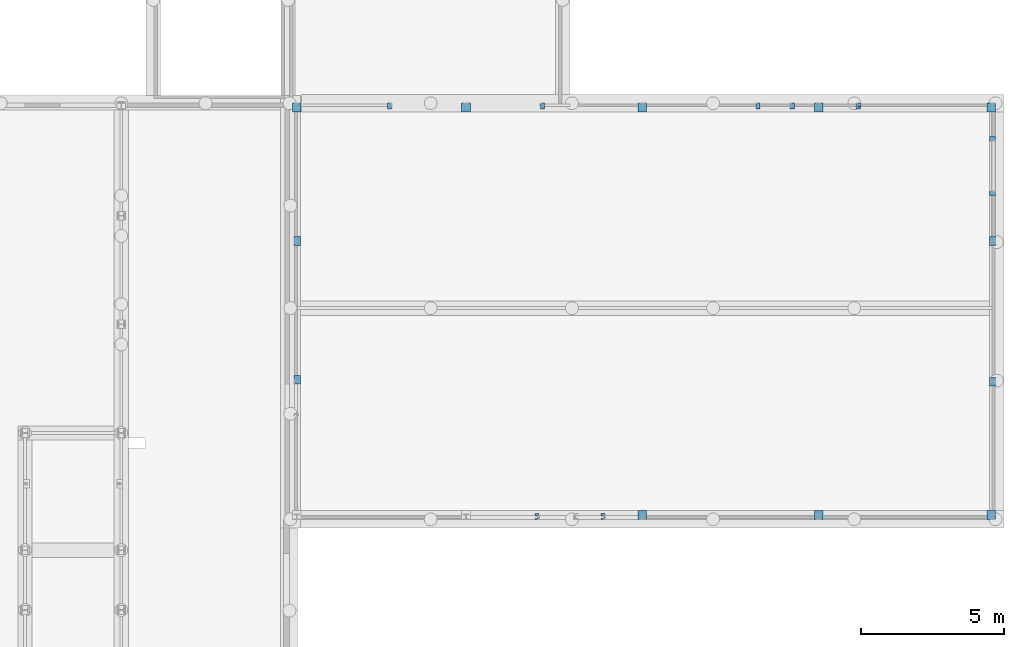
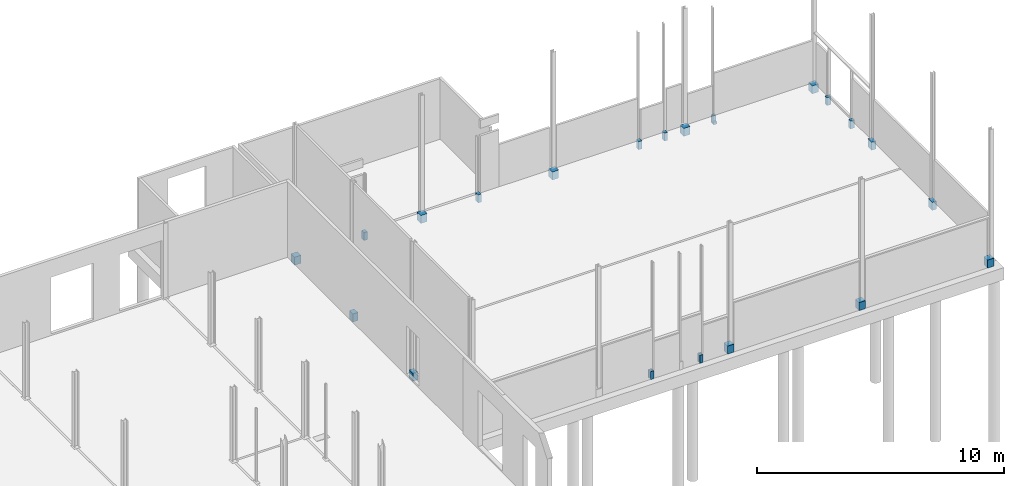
# One storey, part 10 of 18: 21 columns.
"""IFC2X3 building model written with IfcOpenShell, lengths in millimetres."""

from ifc_helpers import new_model, entity, si_unit, converted_unit, derived_unit, direction, frame, frame_2d, origin, origin_2d_with_axis, place, context, subcontext, project, spatial, polyline, rectangle, outline, extrude, faceted_brep, source, transform, mapped, material, type_object, type_shapes, element, save


model = new_model("IFC2X3")

# Units and contexts
model_context = context("Model", 3, precision=0.01, world=origin(), true_north=direction((6.12303176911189e-17, 1.0)))
body_context = subcontext(model_context, "Body", "Model", "MODEL_VIEW")
ifc_project = project(units=[si_unit("LENGTHUNIT", "METRE", prefix="MILLI"), si_unit("AREAUNIT", "SQUARE_METRE"), si_unit("VOLUMEUNIT", "CUBIC_METRE"), converted_unit("PLANEANGLEUNIT", "DEGREE", entity("IfcRatioMeasure", 0.0174532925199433), si_unit("PLANEANGLEUNIT", "RADIAN"), dimensions=[0, 0, 0, 0, 0, 0, 0]), si_unit("MASSUNIT", "GRAM", prefix="KILO"), derived_unit("MASSDENSITYUNIT", [(si_unit("MASSUNIT", "GRAM", prefix="KILO"), 1), (si_unit("LENGTHUNIT", "METRE"), -3)]), derived_unit("MOMENTOFINERTIAUNIT", [(si_unit("LENGTHUNIT", "METRE"), 4)]), si_unit("TIMEUNIT", "SECOND"), si_unit("FREQUENCYUNIT", "HERTZ"), si_unit("THERMODYNAMICTEMPERATUREUNIT", "DEGREE_CELSIUS"), derived_unit("THERMALTRANSMITTANCEUNIT", [(si_unit("MASSUNIT", "GRAM", prefix="KILO"), 1), (si_unit("THERMODYNAMICTEMPERATUREUNIT", "KELVIN"), -1), (si_unit("TIMEUNIT", "SECOND"), -3)]), derived_unit("VOLUMETRICFLOWRATEUNIT", [(si_unit("LENGTHUNIT", "METRE"), 3), (si_unit("TIMEUNIT", "SECOND"), -1)]), si_unit("ELECTRICCURRENTUNIT", "AMPERE"), si_unit("ELECTRICVOLTAGEUNIT", "VOLT"), si_unit("POWERUNIT", "WATT"), si_unit("FORCEUNIT", "NEWTON", prefix="KILO"), si_unit("ILLUMINANCEUNIT", "LUX"), si_unit("LUMINOUSFLUXUNIT", "LUMEN"), si_unit("LUMINOUSINTENSITYUNIT", "CANDELA"), derived_unit("USERDEFINED", [(si_unit("MASSUNIT", "GRAM", prefix="KILO"), -1), (si_unit("LENGTHUNIT", "METRE"), -2), (si_unit("TIMEUNIT", "SECOND"), 3), (si_unit("LUMINOUSFLUXUNIT", "LUMEN"), 1)]), derived_unit("LINEARVELOCITYUNIT", [(si_unit("LENGTHUNIT", "METRE"), 1), (si_unit("TIMEUNIT", "SECOND"), -1)]), si_unit("PRESSUREUNIT", "PASCAL"), derived_unit("USERDEFINED", [(si_unit("LENGTHUNIT", "METRE"), -2), (si_unit("MASSUNIT", "GRAM", prefix="KILO"), 1), (si_unit("TIMEUNIT", "SECOND"), -2)]), derived_unit("LINEARFORCEUNIT", [(si_unit("MASSUNIT", "GRAM", prefix="KILO"), 1), (si_unit("LENGTHUNIT", "METRE"), 1), (si_unit("TIMEUNIT", "SECOND"), -2), (si_unit("LENGTHUNIT", "METRE"), -1)]), derived_unit("PLANARFORCEUNIT", [(si_unit("MASSUNIT", "GRAM", prefix="KILO"), 1), (si_unit("LENGTHUNIT", "METRE"), 1), (si_unit("TIMEUNIT", "SECOND"), -2), (si_unit("LENGTHUNIT", "METRE"), -2)])], contexts=[model_context])

# Site, building, storey
site_placement = place(None, origin())
site = spatial("IfcSite", under=ifc_project, at=site_placement, Name="Default", CompositionType="ELEMENT")
building_placement = place(site_placement, origin())
building = spatial("IfcBuilding", under=site, at=building_placement, CompositionType="ELEMENT")
storey_placement = place(building_placement, frame((0.0, 0.0, -1085.0)))
storey = spatial("IfcBuildingStorey", under=building, at=storey_placement, Name="-00 fundatie", CompositionType="ELEMENT", Elevation=-1085.0)

# Columns
ifc_material = material(Name="f2_beton")
column_type_1 = type_object("IfcColumnType", Name="BERSnl_28_SCO_TLB_kolom vierkant beton_gen_ISR:300x300", PredefinedType="COLUMN", material=ifc_material)
shared_shape_1 = source(origin(), body_context, "Body", "SweptSolid", [
    extrude(rectangle(XDim=300.000000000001, YDim=300.000000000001, at=origin_2d_with_axis()), frame((35089.4270571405, 35346.2966282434, -485.0), z_axis=(0.0, 0.0, 1.0), x_axis=(0.0, -1.0, 0.0)), (0.0, 0.0, 1.0), 395.0),
])
type_shapes(column_type_1, [shared_shape_1])
column_1_placement = place(storey_placement, frame((0.0, 0.0, 1085.0)))
element("IfcColumn", 1, at=column_1_placement, inside=storey, type_object=column_type_1, Name="BERSnl_28_SCO_TLB_kolom vierkant beton_gen_ISR:300x300", ObjectType="BERSnl_28_SCO_TLB_kolom vierkant beton_gen_ISR:300x300", context=body_context, shape_type="MappedRepresentation", body=[
    mapped(shared_shape_1, transform((0.0, 0.0, 0.0), scale=1.0)),
])
column_type_2 = type_object("IfcColumnType", Name="BERSnl_28_SCO_TLB_kolom vierkant beton_gen_ISR:300x300", PredefinedType="COLUMN", material=ifc_material)
shared_shape_2 = source(origin(), body_context, "Body", "SweptSolid", [
    extrude(rectangle(XDim=300.000000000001, YDim=300.000000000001, at=origin_2d_with_axis()), frame((40983.4270571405, 35346.2966282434, -485.0), z_axis=(0.0, 0.0, 1.0), x_axis=(0.0, -1.0, 0.0)), (0.0, 0.0, 1.0), 395.0),
])
type_shapes(column_type_2, [shared_shape_2])
column_2_placement = place(storey_placement, frame((0.0, 0.0, 1085.0)))
element("IfcColumn", 2, at=column_2_placement, inside=storey, type_object=column_type_2, Name="BERSnl_28_SCO_TLB_kolom vierkant beton_gen_ISR:300x300", ObjectType="BERSnl_28_SCO_TLB_kolom vierkant beton_gen_ISR:300x300", context=body_context, shape_type="MappedRepresentation", body=[
    mapped(shared_shape_2, transform((0.0, 0.0, 0.0), scale=1.0)),
])
column_type_3 = type_object("IfcColumnType", Name="BERSnl_28_SCO_TLB_kolom vierkant beton_gen_ISR:300x300", PredefinedType="COLUMN", material=ifc_material)
shared_shape_3 = source(origin(), body_context, "Body", "SweptSolid", [
    extrude(rectangle(XDim=300.000000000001, YDim=300.000000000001, at=origin_2d_with_axis()), frame((47133.4270571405, 35346.2966282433, -485.0), z_axis=(0.0, 0.0, 1.0), x_axis=(0.0, -1.0, 0.0)), (0.0, 0.0, 1.0), 395.0),
])
type_shapes(column_type_3, [shared_shape_3])
column_3_placement = place(storey_placement, frame((0.0, 0.0, 1085.0)))
element("IfcColumn", 3, at=column_3_placement, inside=storey, type_object=column_type_3, Name="BERSnl_28_SCO_TLB_kolom vierkant beton_gen_ISR:300x300", ObjectType="BERSnl_28_SCO_TLB_kolom vierkant beton_gen_ISR:300x300", context=body_context, shape_type="MappedRepresentation", body=[
    mapped(shared_shape_3, transform((0.0, 0.0, 0.0), scale=1.0)),
])
column_type_4 = type_object("IfcColumnType", Name="BERSnl_28_SCO_TLB_kolom vierkant beton_gen_ISR:300x300", PredefinedType="COLUMN", material=ifc_material)
shared_shape_4 = source(origin(), body_context, "Body", "SweptSolid", [
    extrude(rectangle(XDim=300.000000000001, YDim=300.000000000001, at=origin_2d_with_axis()), frame((53283.4270571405, 35346.2966282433, -485.0), z_axis=(0.0, 0.0, 1.0), x_axis=(0.0, -1.0, 0.0)), (0.0, 0.0, 1.0), 395.0),
])
type_shapes(column_type_4, [shared_shape_4])
column_4_placement = place(storey_placement, frame((0.0, 0.0, 1085.0)))
element("IfcColumn", 4, at=column_4_placement, inside=storey, type_object=column_type_4, Name="BERSnl_28_SCO_TLB_kolom vierkant beton_gen_ISR:300x300", ObjectType="BERSnl_28_SCO_TLB_kolom vierkant beton_gen_ISR:300x300", context=body_context, shape_type="MappedRepresentation", body=[
    mapped(shared_shape_4, transform((0.0, 0.0, 0.0), scale=1.0)),
])
column_type_5 = type_object("IfcColumnType", Name="BERSnl_28_SCO_TLB_kolom vierkant beton_gen_ISR:300x300", PredefinedType="COLUMN", material=ifc_material)
shared_shape_5 = source(origin(), body_context, "Body", "SweptSolid", [
    extrude(rectangle(XDim=300.000000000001, YDim=300.000000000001, at=origin_2d_with_axis()), frame((59283.4270571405, 35346.2966282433, -485.0), z_axis=(0.0, 0.0, 1.0), x_axis=(0.0, -1.0, 0.0)), (0.0, 0.0, 1.0), 395.0),
])
type_shapes(column_type_5, [shared_shape_5])
column_5_placement = place(storey_placement, frame((0.0, 0.0, 1085.0)))
element("IfcColumn", 5, at=column_5_placement, inside=storey, type_object=column_type_5, Name="BERSnl_28_SCO_TLB_kolom vierkant beton_gen_ISR:300x300", ObjectType="BERSnl_28_SCO_TLB_kolom vierkant beton_gen_ISR:300x300", context=body_context, shape_type="MappedRepresentation", body=[
    mapped(shared_shape_5, transform((0.0, 0.0, 0.0), scale=1.0)),
])
column_type_6 = type_object("IfcColumnType", Name="BERSnl_28_SCO_TLB_kolom vierkant beton_gen_ISR:300x200", PredefinedType="COLUMN", material=ifc_material)
shared_shape_6 = source(origin(), body_context, "Body", "SweptSolid", [
    extrude(rectangle(XDim=300.000000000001, YDim=199.999999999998, at=origin_2d_with_axis()), frame((59333.4270571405, 30696.2966282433, -485.0), z_axis=(0.0, 0.0, 1.0), x_axis=(0.0, -1.0, 0.0)), (0.0, 0.0, 1.0), 395.0),
])
type_shapes(column_type_6, [shared_shape_6])
column_6_placement = place(storey_placement, frame((0.0, 0.0, 1085.0)))
element("IfcColumn", 6, at=column_6_placement, inside=storey, type_object=column_type_6, Name="BERSnl_28_SCO_TLB_kolom vierkant beton_gen_ISR:300x200", ObjectType="BERSnl_28_SCO_TLB_kolom vierkant beton_gen_ISR:300x200", context=body_context, shape_type="MappedRepresentation", body=[
    mapped(shared_shape_6, transform((0.0, 0.0, 0.0), scale=1.0)),
])
column_type_7 = type_object("IfcColumnType", Name="BERSnl_28_SCO_TLB_kolom vierkant beton_gen_ISR:300x300", PredefinedType="COLUMN", material=ifc_material)
shared_shape_7 = source(origin(), body_context, "Body", "SweptSolid", [
    extrude(rectangle(XDim=300.000000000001, YDim=199.999999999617, at=frame_2d((0.0, -4.33431068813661e-12), x_axis=(1.0, 0.0))), frame((59333.4270571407, 25796.2966282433, -485.0), z_axis=(0.0, 0.0, 1.0), x_axis=(0.0, -1.0, 0.0)), (0.0, 0.0, 1.0), 395.0),
])
type_shapes(column_type_7, [shared_shape_7])
column_7_placement = place(storey_placement, frame((0.0, 0.0, 1085.0)))
element("IfcColumn", 7, at=column_7_placement, inside=storey, type_object=column_type_7, Name="BERSnl_28_SCO_TLB_kolom vierkant beton_gen_ISR:300x300", ObjectType="BERSnl_28_SCO_TLB_kolom vierkant beton_gen_ISR:300x300", context=body_context, shape_type="MappedRepresentation", body=[
    mapped(shared_shape_7, transform((0.0, 0.0, 0.0), scale=1.0)),
])
column_type_8 = type_object("IfcColumnType", Name="BERSnl_28_SCO_TLB_kolom vierkant beton_gen_ISR:300x300", PredefinedType="COLUMN", material=ifc_material)
shared_shape_8 = source(origin(), body_context, "Body", "SweptSolid", [
    extrude(rectangle(XDim=300.000000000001, YDim=300.000000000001, at=origin_2d_with_axis()), frame((59283.4270571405, 21146.2966282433, -485.0), z_axis=(0.0, 0.0, 1.0), x_axis=(0.0, -1.0, 0.0)), (0.0, 0.0, 1.0), 395.0),
])
type_shapes(column_type_8, [shared_shape_8])
column_8_placement = place(storey_placement, frame((0.0, 0.0, 1085.0)))
element("IfcColumn", 8, at=column_8_placement, inside=storey, type_object=column_type_8, Name="BERSnl_28_SCO_TLB_kolom vierkant beton_gen_ISR:300x300", ObjectType="BERSnl_28_SCO_TLB_kolom vierkant beton_gen_ISR:300x300", context=body_context, shape_type="MappedRepresentation", body=[
    mapped(shared_shape_8, transform((0.0, 0.0, 0.0), scale=1.0)),
])
column_type_9 = type_object("IfcColumnType", Name="BERSnl_28_SCO_TLB_kolom vierkant beton_gen_ISR:300x300", PredefinedType="COLUMN", material=ifc_material)
shared_shape_9 = source(origin(), body_context, "Body", "SweptSolid", [
    extrude(rectangle(XDim=300.000000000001, YDim=300.000000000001, at=origin_2d_with_axis()), frame((53283.4270571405, 21146.2966282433, -485.0), z_axis=(0.0, 0.0, 1.0), x_axis=(0.0, -1.0, 0.0)), (0.0, 0.0, 1.0), 395.0),
])
type_shapes(column_type_9, [shared_shape_9])
column_9_placement = place(storey_placement, frame((0.0, 0.0, 1085.0)))
element("IfcColumn", 9, at=column_9_placement, inside=storey, type_object=column_type_9, Name="BERSnl_28_SCO_TLB_kolom vierkant beton_gen_ISR:300x300", ObjectType="BERSnl_28_SCO_TLB_kolom vierkant beton_gen_ISR:300x300", context=body_context, shape_type="MappedRepresentation", body=[
    mapped(shared_shape_9, transform((0.0, 0.0, 0.0), scale=1.0)),
])
column_type_10 = type_object("IfcColumnType", Name="BERSnl_28_SCO_TLB_kolom vierkant beton_gen_ISR:300x300", PredefinedType="COLUMN", material=ifc_material)
shared_shape_10 = source(origin(), body_context, "Body", "SweptSolid", [
    extrude(rectangle(XDim=300.000000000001, YDim=300.000000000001, at=origin_2d_with_axis()), frame((47133.4270571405, 21146.2966282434, -485.0), z_axis=(0.0, 0.0, 1.0), x_axis=(0.0, -1.0, 0.0)), (0.0, 0.0, 1.0), 395.0),
])
type_shapes(column_type_10, [shared_shape_10])
column_10_placement = place(storey_placement, frame((0.0, 0.0, 1085.0)))
element("IfcColumn", 10, at=column_10_placement, inside=storey, type_object=column_type_10, Name="BERSnl_28_SCO_TLB_kolom vierkant beton_gen_ISR:300x300", ObjectType="BERSnl_28_SCO_TLB_kolom vierkant beton_gen_ISR:300x300", context=body_context, shape_type="MappedRepresentation", body=[
    mapped(shared_shape_10, transform((0.0, 0.0, 0.0), scale=1.0)),
])
column_type_11 = type_object("IfcColumnType", Name="BERSnl_28_SCO_TLB_kolom vierkant beton_gen_ISR:300x230", PredefinedType="COLUMN", material=ifc_material)
shared_shape_11 = source(origin(), body_context, "Body", "SweptSolid", [
    extrude(rectangle(XDim=300.000000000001, YDim=230.0, at=origin_2d_with_axis()), frame((35098.4270571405, 30696.2966282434, -485.0), z_axis=(0.0, 0.0, 1.0), x_axis=(0.0, -1.0, 0.0)), (0.0, 0.0, 1.0), 395.0),
])
type_shapes(column_type_11, [shared_shape_11])
column_11_placement = place(storey_placement, frame((0.0, 0.0, 1085.0)))
element("IfcColumn", 11, at=column_11_placement, inside=storey, type_object=column_type_11, Name="BERSnl_28_SCO_TLB_kolom vierkant beton_gen_ISR:300x230", ObjectType="BERSnl_28_SCO_TLB_kolom vierkant beton_gen_ISR:300x230", context=body_context, shape_type="MappedRepresentation", body=[
    mapped(shared_shape_11, transform((0.0, 0.0, 0.0), scale=1.0)),
])
column_type_12 = type_object("IfcColumnType", Name="BERSnl_28_SCO_TLB_kolom vierkant beton_gen_ISR:300x230", PredefinedType="COLUMN", material=ifc_material)
shared_shape_12 = source(origin(), body_context, "Body", "SweptSolid", [
    extrude(rectangle(XDim=300.000000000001, YDim=230.0, at=origin_2d_with_axis()), frame((35098.4270571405, 25856.2966282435, -485.0), z_axis=(0.0, 0.0, 1.0), x_axis=(0.0, -1.0, 0.0)), (0.0, 0.0, 1.0), 395.0),
])
type_shapes(column_type_12, [shared_shape_12])
column_12_placement = place(storey_placement, frame((0.0, 0.0, 1085.0)))
element("IfcColumn", 12, at=column_12_placement, inside=storey, type_object=column_type_12, Name="BERSnl_28_SCO_TLB_kolom vierkant beton_gen_ISR:300x230", ObjectType="BERSnl_28_SCO_TLB_kolom vierkant beton_gen_ISR:300x230", context=body_context, shape_type="MappedRepresentation", body=[
    mapped(shared_shape_12, transform((0.0, 0.0, 0.0), scale=1.0)),
])
column_type_13 = type_object("IfcColumnType", Name="BERSnl_28_SCO_TLB_kolom vierkant beton_gen_ISR:200x150", PredefinedType="COLUMN", material=ifc_material)
shared_shape_13 = source(origin(), body_context, "Body", "SweptSolid", [
    extrude(rectangle(XDim=150.000000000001, YDim=199.999999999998, at=origin_2d_with_axis()), frame((59333.4270571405, 34257.2966282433, -485.0), z_axis=(0.0, 0.0, 1.0), x_axis=(0.0, -1.0, 0.0)), (0.0, 0.0, 1.0), 395.0),
])
type_shapes(column_type_13, [shared_shape_13])
column_13_placement = place(storey_placement, frame((0.0, 0.0, 1085.0)))
element("IfcColumn", 13, at=column_13_placement, inside=storey, type_object=column_type_13, Name="BERSnl_28_SCO_TLB_kolom vierkant beton_gen_ISR:200x150", ObjectType="BERSnl_28_SCO_TLB_kolom vierkant beton_gen_ISR:200x150", context=body_context, shape_type="MappedRepresentation", body=[
    mapped(shared_shape_13, transform((0.0, 0.0, 0.0), scale=1.0)),
])
column_type_14 = type_object("IfcColumnType", Name="BERSnl_28_SCO_TLB_kolom vierkant beton_gen_ISR:200x150", PredefinedType="COLUMN", material=ifc_material)
shared_shape_14 = source(origin(), body_context, "Body", "SweptSolid", [
    extrude(rectangle(XDim=150.000000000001, YDim=199.999999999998, at=origin_2d_with_axis()), frame((59333.4270571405, 32347.2966282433, -485.0), z_axis=(0.0, 0.0, 1.0), x_axis=(0.0, -1.0, 0.0)), (0.0, 0.0, 1.0), 395.0),
])
type_shapes(column_type_14, [shared_shape_14])
column_14_placement = place(storey_placement, frame((0.0, 0.0, 1085.0)))
element("IfcColumn", 14, at=column_14_placement, inside=storey, type_object=column_type_14, Name="BERSnl_28_SCO_TLB_kolom vierkant beton_gen_ISR:200x150", ObjectType="BERSnl_28_SCO_TLB_kolom vierkant beton_gen_ISR:200x150", context=body_context, shape_type="MappedRepresentation", body=[
    mapped(shared_shape_14, transform((0.0, 0.0, 0.0), scale=1.0)),
])
column_type_15 = type_object("IfcColumnType", Name="BERSnl_28_SCO_TLB_kolom vierkant beton_gen_ISR:200x150", PredefinedType="COLUMN", material=ifc_material)
shared_shape_15 = source(origin(), body_context, "Body", "Brep", [
    faceted_brep([(150.0, 200.0, 395.0), (0.0, 200.0, 395.0), (0.0, 180.0, 395.0), (15.0, 180.0, 395.0), (15.0, 80.0, 395.0), (150.0, 80.0, 395.0), (150.0, 180.0, 395.0), (0.0, 200.0, 0.0), (150.0, 200.0, 0.0), (150.0, 180.0, 0.0), (150.0, 80.0, 0.0), (150.0, 0.0, 0.0), (0.0, 0.0, 0.0), (0.0, 80.0, 0.0), (15.0, 80.0, 0.0), (15.0, 180.0, 0.0), (0.0, 180.0, 0.0), (150.0, 0.0, 130.0), (0.0, 0.0, 130.0), (150.0, 80.0, 130.0), (0.0, 80.0, 130.0), (15.0, 80.0, 130.0)], [[[0, 1, 2, 3, 4, 5, 6]], [[7, 8, 9, 10, 11, 12, 13, 14, 15, 16]], [[1, 7, 16, 2]], [[12, 11, 17, 18]], [[8, 0, 6, 5, 19, 17, 11, 10, 9]], [[1, 0, 8, 7]], [[20, 18, 17, 19, 21]], [[19, 5, 4, 21]], [[21, 14, 13, 20]], [[15, 3, 2, 16]], [[12, 18, 20, 13]], [[14, 21, 4, 3, 15]]]),
])
type_shapes(column_type_15, [shared_shape_15])
column_15_placement = place(storey_placement, frame((54583.4270571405, 35296.2966282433, 600.0)))
element("IfcColumn", 15, at=column_15_placement, inside=storey, type_object=column_type_15, material=ifc_material, Name="BERSnl_28_SCO_TLB_kolom vierkant beton_gen_ISR:200x150", ObjectType="BERSnl_28_SCO_TLB_kolom vierkant beton_gen_ISR:200x150", context=body_context, shape_type="MappedRepresentation", body=[
    mapped(shared_shape_15, transform((0.0, 0.0, 0.0), scale=1.0)),
])
column_type_16 = type_object("IfcColumnType", Name="BERSnl_28_SCO_TLB_kolom vierkant beton_gen_ISR:200x150", PredefinedType="COLUMN", material=ifc_material)
shared_shape_16 = source(origin(), body_context, "Body", "Brep", [
    faceted_brep([(0.0, 0.0, 395.0), (150.0, 0.0, 395.0), (150.0, 80.0, 395.0), (150.0, 200.0, 395.0), (0.0, 200.0, 395.0), (0.0, 80.0, 395.0), (0.0, 200.0, 0.0), (150.0, 200.0, 0.0), (150.0, 180.0, 0.0), (150.0, 80.0, 0.0), (150.0, 0.0, 0.0), (0.165849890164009, 0.0, 0.0), (0.165849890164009, 80.0, 0.0), (0.0, 80.0, 0.0), (0.0, 180.0, 0.0), (0.0, 80.0, 130.0), (0.0, 0.0, 130.0), (0.165849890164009, 0.0, 130.0), (150.0, 0.0, 130.0), (0.165849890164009, 80.0, 130.0)], [[[0, 1, 2, 3, 4, 5]], [[6, 7, 8, 9, 10, 11, 12, 13, 14]], [[4, 6, 14, 13, 15, 16, 0, 5]], [[1, 0, 16, 17, 11, 10, 18]], [[10, 9, 8, 7, 3, 2, 1, 18]], [[4, 3, 7, 6]], [[19, 17, 16, 15]], [[12, 19, 15, 13]], [[17, 19, 12, 11]]]),
])
type_shapes(column_type_16, [shared_shape_16])
column_16_placement = place(storey_placement, frame((52283.4270571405, 35296.2966282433, 600.0)))
element("IfcColumn", 16, at=column_16_placement, inside=storey, type_object=column_type_16, material=ifc_material, Name="BERSnl_28_SCO_TLB_kolom vierkant beton_gen_ISR:200x150", ObjectType="BERSnl_28_SCO_TLB_kolom vierkant beton_gen_ISR:200x150", context=body_context, shape_type="MappedRepresentation", body=[
    mapped(shared_shape_16, transform((0.0, 0.0, 0.0), scale=1.0)),
])
column_type_17 = type_object("IfcColumnType", Name="BERSnl_28_SCO_TLB_kolom vierkant beton_gen_ISR:200x150", PredefinedType="COLUMN", material=ifc_material)
shared_shape_17 = source(origin(), body_context, "Body", "SweptSolid", [
    extrude(rectangle(XDim=199.999999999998, YDim=150.000000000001, at=origin_2d_with_axis()), frame((43648.4270571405, 35396.2966282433, -485.0), z_axis=(0.0, 0.0, 1.0), x_axis=(0.0, -1.0, 0.0)), (0.0, 0.0, 1.0), 395.0),
])
type_shapes(column_type_17, [shared_shape_17])
column_17_placement = place(storey_placement, frame((0.0, 0.0, 1085.0)))
element("IfcColumn", 17, at=column_17_placement, inside=storey, type_object=column_type_17, Name="BERSnl_28_SCO_TLB_kolom vierkant beton_gen_ISR:200x150", ObjectType="BERSnl_28_SCO_TLB_kolom vierkant beton_gen_ISR:200x150", context=body_context, shape_type="MappedRepresentation", body=[
    mapped(shared_shape_17, transform((0.0, 0.0, 0.0), scale=1.0)),
])
column_type_18 = type_object("IfcColumnType", Name="BERSnl_28_SCO_TLB_kolom vierkant beton_gen_ISR:200x150", PredefinedType="COLUMN", material=ifc_material)
shared_shape_18 = source(origin(), body_context, "Body", "SweptSolid", [
    extrude(rectangle(XDim=199.999999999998, YDim=150.000000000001, at=origin_2d_with_axis()), frame((38318.4270571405, 35396.2966282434, -485.0), z_axis=(0.0, 0.0, 1.0), x_axis=(0.0, -1.0, 0.0)), (0.0, 0.0, 1.0), 395.0),
])
type_shapes(column_type_18, [shared_shape_18])
column_18_placement = place(storey_placement, frame((0.0, 0.0, 1085.0)))
element("IfcColumn", 18, at=column_18_placement, inside=storey, type_object=column_type_18, Name="BERSnl_28_SCO_TLB_kolom vierkant beton_gen_ISR:200x150", ObjectType="BERSnl_28_SCO_TLB_kolom vierkant beton_gen_ISR:200x150", context=body_context, shape_type="MappedRepresentation", body=[
    mapped(shared_shape_18, transform((0.0, 0.0, 0.0), scale=1.0)),
])
column_type_19 = type_object("IfcColumnType", Name="BERSnl_28_SCO_TLB_kolom vierkant beton_gen_ISR:200x150", PredefinedType="COLUMN", material=ifc_material)
shared_shape_19 = source(origin(), body_context, "Body", "SweptSolid", [
    extrude(rectangle(XDim=80.0000000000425, YDim=150.000000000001, at=frame_2d((-6.49791331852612e-12, 0.0), x_axis=(1.0, 0.0))), frame((43458.4270571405, 21156.2966282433, -485.0), z_axis=(0.0, 0.0, 1.0), x_axis=(0.0, -1.0, 0.0)), (0.0, 0.0, 1.0), 395.0),
    extrude(rectangle(XDim=19.9999999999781, YDim=150.000000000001, at=origin_2d_with_axis()), frame((43458.4270571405, 21006.2966282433, -485.0), z_axis=(0.0, 0.0, 1.0), x_axis=(0.0, -1.0, 0.0)), (0.0, 0.0, 1.0), 395.0),
])
type_shapes(column_type_19, [shared_shape_19])
column_19_placement = place(storey_placement, frame((0.0, 0.0, 1085.0)))
element("IfcColumn", 19, at=column_19_placement, inside=storey, type_object=column_type_19, Name="BERSnl_28_SCO_TLB_kolom vierkant beton_gen_ISR:200x150", ObjectType="BERSnl_28_SCO_TLB_kolom vierkant beton_gen_ISR:200x150", context=body_context, shape_type="MappedRepresentation", body=[
    mapped(shared_shape_19, transform((0.0, 0.0, 0.0), scale=1.0)),
])
column_type_20 = type_object("IfcColumnType", Name="BERSnl_28_SCO_TLB_kolom vierkant beton_gen_ISR:200x150", PredefinedType="COLUMN", material=ifc_material)
shared_shape_20 = source(origin(), body_context, "Body", "SweptSolid", [
    extrude(rectangle(XDim=80.0000000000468, YDim=147.721162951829, at=frame_2d((-8.66151594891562e-12, 0.0), x_axis=(1.0, 0.0))), frame((45759.5664756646, 21156.2966282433, -485.0), z_axis=(0.0, 0.0, 1.0), x_axis=(0.0, -1.0, 0.0)), (0.0, 0.0, 1.0), 395.0),
    extrude(rectangle(XDim=19.9999999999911, YDim=150.000000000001, at=frame_2d((2.16537898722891e-12, 0.0), x_axis=(1.0, 0.0))), frame((45758.4270571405, 21006.2966282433, -485.0), z_axis=(0.0, 0.0, 1.0), x_axis=(0.0, -1.0, 0.0)), (0.0, 0.0, 1.0), 395.0),
])
type_shapes(column_type_20, [shared_shape_20])
column_20_placement = place(storey_placement, frame((0.0, 0.0, 1085.0)))
element("IfcColumn", 20, at=column_20_placement, inside=storey, type_object=column_type_20, Name="BERSnl_28_SCO_TLB_kolom vierkant beton_gen_ISR:200x150", ObjectType="BERSnl_28_SCO_TLB_kolom vierkant beton_gen_ISR:200x150", context=body_context, shape_type="MappedRepresentation", body=[
    mapped(shared_shape_20, transform((0.0, 0.0, 0.0), scale=1.0)),
])
column_type_21 = type_object("IfcColumnType", Name="BERSnl_28_SCO_TLB_kolom vierkant beton_gen_ISR:200x150", PredefinedType="COLUMN", material=ifc_material)
shared_shape_21 = source(origin(), body_context, "Body", "SweptSolid", [
    extrude(outline(polyline([(-106.66666666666, -50.0552832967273), (13.3333333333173, -50.0552832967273), (13.3333333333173, -49.8894334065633), (93.3333333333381, -49.8894334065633), (93.3333333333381, 99.9447167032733), (-106.66666666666, 99.9447167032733), (-106.66666666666, -50.0552832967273)])), frame((51133.3164905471, 35389.6299615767, -485.0), z_axis=(0.0, 0.0, 1.0), x_axis=(0.0, -1.0, 0.0)), (0.0, 0.0, 1.0), 395.0),
])
type_shapes(column_type_21, [shared_shape_21])
column_21_placement = place(storey_placement, frame((0.0, 0.0, 1085.0)))
element("IfcColumn", 21, at=column_21_placement, inside=storey, type_object=column_type_21, Name="BERSnl_28_SCO_TLB_kolom vierkant beton_gen_ISR:200x150", ObjectType="BERSnl_28_SCO_TLB_kolom vierkant beton_gen_ISR:200x150", context=body_context, shape_type="MappedRepresentation", body=[
    mapped(shared_shape_21, transform((0.0, 0.0, 0.0), scale=1.0)),
])

save(model, "model.ifc")
